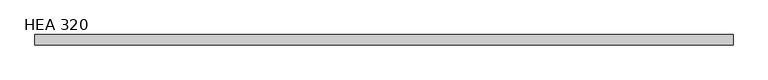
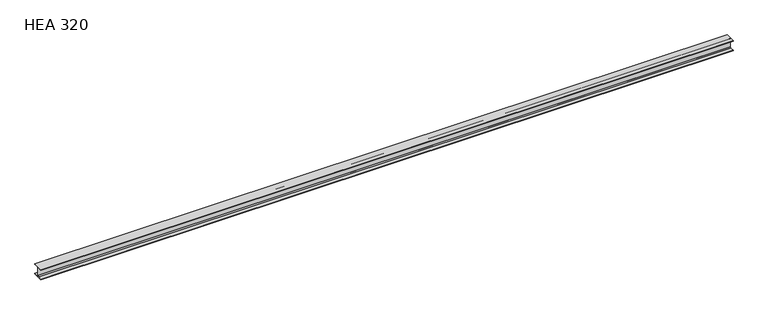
"""IFC4 building model written with IfcOpenShell, lengths in millimetres: beam geometry, HE-A-Balken : HEA 320."""

from ifc_helpers import new_model, si_unit, point, frame, frame_2d, origin, place, context, project, spatial, polyline, circle_curve, trimmed, segment, composite_curve, outline, extrude, source, transform, mapped, element, save


def hea_320_9a9b97b3(model_context):
    return source(origin(), model_context, "Body", "SweptSolid", [
        extrude(outline(composite_curve([segment(polyline([(150.0, -139.6), (150.0, -155.0), (-150.0, -155.0), (-150.0, -139.6), (-31.6, -139.6)]), True, "CONTINUOUS"), segment(trimmed(circle_curve(frame_2d((-31.6, -112.5)), 27.1), [point((-31.6, -139.6))], [point((-4.5, -112.5))], True, "CARTESIAN"), True, "CONTINUOUS"), segment(polyline([(-4.5, -112.5), (-4.5, 112.5)]), True, "CONTINUOUS"), segment(trimmed(circle_curve(frame_2d((-31.6, 112.5)), 27.1), [point((-4.5, 112.5))], [point((-31.6, 139.6))], True, "CARTESIAN"), True, "CONTINUOUS"), segment(polyline([(-31.6, 139.6), (-150.0, 139.6), (-150.0, 155.0), (150.0, 155.0), (150.0, 139.6), (31.6, 139.6)]), True, "CONTINUOUS"), segment(trimmed(circle_curve(frame_2d((31.6, 112.5)), 27.1), [point((31.6, 139.6))], [point((4.5, 112.5))], True, "CARTESIAN"), True, "CONTINUOUS"), segment(polyline([(4.5, 112.5), (4.5, -112.5)]), True, "CONTINUOUS"), segment(trimmed(circle_curve(frame_2d((31.6, -112.5)), 27.1), [point((4.5, -112.5))], [point((31.6, -139.6))], True, "CARTESIAN"), True, "CONTINUOUS"), segment(polyline([(31.6, -139.6), (150.0, -139.6)]), True, "CONTINUOUS")], self_intersect=False)), frame((-10026.5781887, 0.0, 0.0), z_axis=(1.0, 0.0, 0.0), x_axis=(0.0, 1.0, 0.0)), (0.0, 0.0, 1.0), 20053.1563773),
    ])


if __name__ == "__main__":
    model = new_model("IFC4")
    model_context = context("Model", 3, world=origin())
    ifc_project = project(units=[si_unit("LENGTHUNIT", "METRE", prefix="MILLI")], contexts=[model_context])
    site = spatial("IfcSite", under=ifc_project)
    building = spatial("IfcBuilding", under=site)
    placement = place(None, origin())
    hea_320_shape = hea_320_9a9b97b3(model_context)
    element("IfcBeam", 1, ObjectType="HE-A-Balken : HEA 320", at=placement, inside=building, context=model_context, shape_type="MappedRepresentation", body=[
        mapped(hea_320_shape, transform((0.0, 0.0, 0.0), x_axis=(1.0, 0.0, 0.0), y_axis=(0.0, 1.0, 0.0), z_axis=(0.0, 0.0, 1.0))),
    ])
    save(model, "model.ifc")
